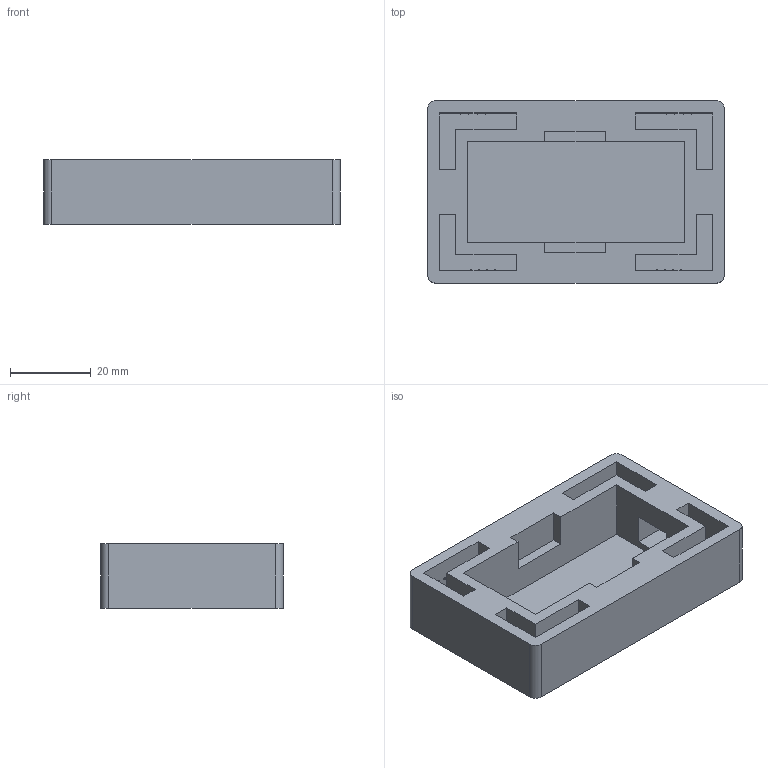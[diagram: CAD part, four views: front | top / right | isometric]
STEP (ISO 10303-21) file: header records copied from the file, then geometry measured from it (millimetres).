
FILE_DESCRIPTION(/* description */ ('STEP AP242 Edition 2','CAx-IF Rec.Pracs.---Representation and Presentation of Product Manufacturing Information (PMI)---4.0---2014-10-13','CAx-IF Rec.Pracs.---3D Tessellated Geometry---0.4---2014-09-14','2;1','CAx-IF Rec.Pracs.---User Defined Attributes---1.5---2016-08-15'),/* implementation_level */ '2;1');
FILE_NAME(/* name */ 'Part Studio 1 - Battery Case',/* time_stamp */ '2026-11-25T23:28:50Z',/* author */ (''),/* organization */ (''),/* preprocessor_version */ 'ST-DEVELOPER v20',/* originating_system */ 'ONSHAPE BY PTC INC, 1.224',/* authorisation */ ' ');
FILE_SCHEMA (('AP242_MANAGED_MODEL_BASED_3D_ENGINEERING_MIM_LF { 1 0 10303 442 3 1 4 }'));
Length unit declared in the file: metre
Products named in the file (1): Battery Case
Bounding box: 73.5 x 45.1 x 16 mm (x, y, z)
Volume: 25257.8 mm3; surface area: 16543.8 mm2
Topology: 1 solids, 1 shells, 71 faces, 208 edges, 144 vertices
Faces by surface type: plane 51, sphere 16, cylinder 4
Entity records: 2012 total; most frequent: CARTESIAN_POINT 344, DIRECTION 328, ORIENTED_EDGE 320, EDGE_CURVE 160, LINE 136, VECTOR 136, VERTEX_POINT 112, AXIS2_PLACEMENT_3D 96
